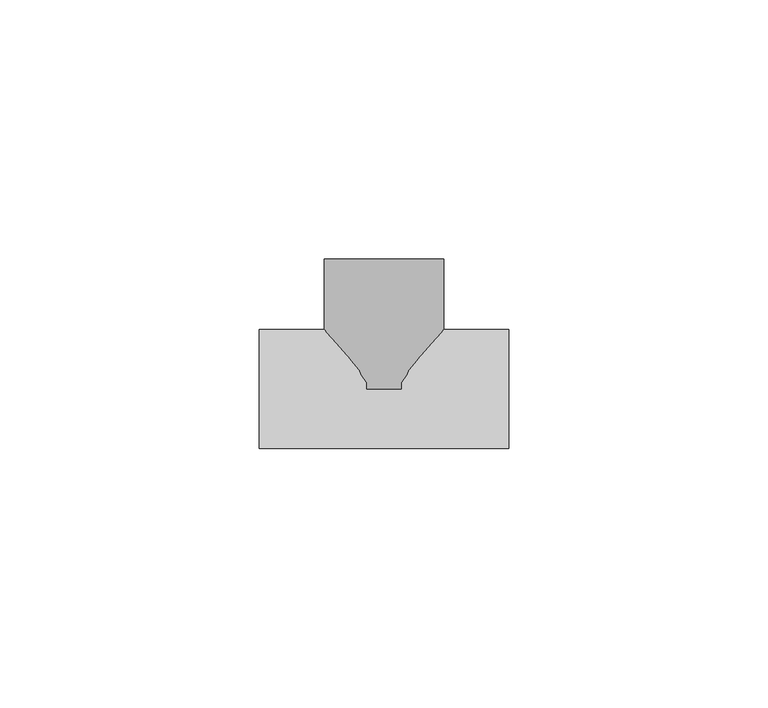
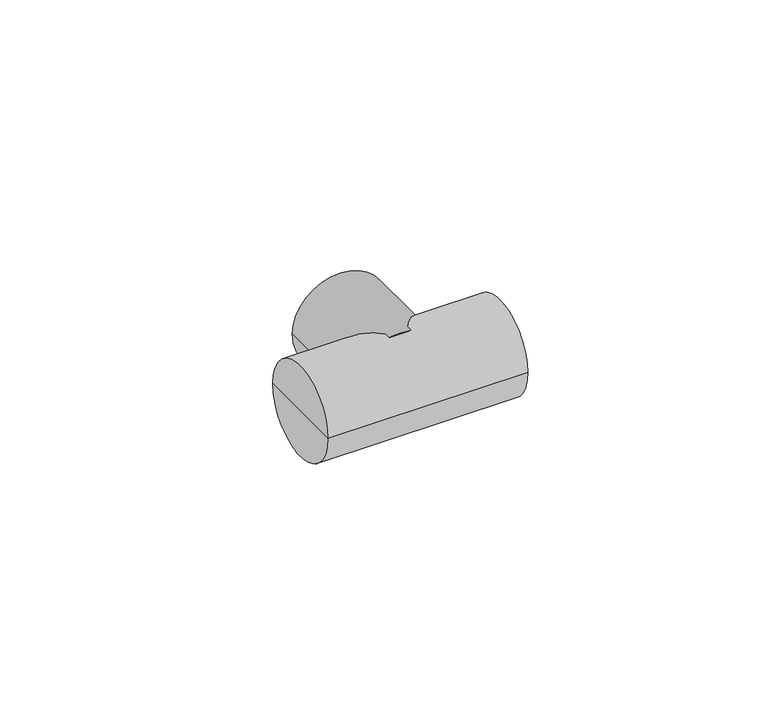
"""IFC4 building model written with IfcOpenShell, lengths in millimetres: pipe fitting geometry, KAN-therm PP trojnik : KAN-therm PP trojnik."""

from ifc_helpers import new_model, si_unit, frame, origin, place, context, project, spatial, circle_curve, source, transform, mapped, element, save
from ifc_brep_helpers import plane_surface, cylinder_surface, advanced_brep


def pipe_fitting_a57338f9(model_context):
    return source(origin(), model_context, "Body", "AdvancedBrep", [
        advanced_brep(
        [(-11.5, 25.0, 0.0), (11.5, 25.0, 0.0), (11.5, 0.0, 0.0), (-11.5, 0.0, 0.0), (0.0, 25.0, 0.0), (0.0, 0.0, 0.0)],
        [
            (0, 1, circle_curve(frame((0.0, 25.0, 0.0), z_axis=(0.0, -1.0, 0.0), x_axis=(1.0, 0.0, 0.0)), 11.5)),
            (1, 2),
            (2, 3, circle_curve(frame((0.0, 0.0, 0.0), z_axis=(0.0, 1.0, 0.0), x_axis=(1.0, 0.0, 0.0)), 11.5)),
            (3, 0),
            (1, 0, circle_curve(frame((0.0, 25.0, 0.0), z_axis=(0.0, -1.0, 0.0), x_axis=(1.0, 0.0, 0.0)), 11.5)),
            (3, 2, circle_curve(frame((0.0, 0.0, 0.0), z_axis=(0.0, 1.0, 0.0), x_axis=(1.0, 0.0, 0.0)), 11.5)),
            (4, 1),
            (0, 4),
            (2, 5),
            (5, 3),
        ],
        [
            cylinder_surface(frame((0.0, 1998.0, 0.0), z_axis=(0.0, 1.0, 0.0), x_axis=(1.0, 0.0, 0.0)), 11.5),
            plane_surface(frame((0.0, 25.0, 0.0), z_axis=(0.0, 1.0, 0.0), x_axis=(1.0, 0.0, 0.0))),
            plane_surface(frame((0.0, 0.0, 0.0), z_axis=(0.0, -1.0, 0.0), x_axis=(1.0, 0.0, 0.0))),
        ],
        [
            (0, [[1, 2, 3, 4]]),
            (0, [[5, -4, 6, -2]]),
            (1, [[7, -1, 8]]),
            (1, [[-8, -5, -7]]),
            (2, [[-3, 9, 10]]),
            (2, [[-6, -10, -9]]),
        ],
    ),
        advanced_brep(
        [(24.0, 0.0, 0.0), (24.0, -11.5, 0.0), (24.0, 11.5, 0.0), (-24.0, 11.5, 0.0), (-24.0, -11.5, 0.0), (-24.0, 0.0, 0.0)],
        [
            (0, 1),
            (1, 2, circle_curve(frame((24.0, 0.0, 0.0), z_axis=(1.0, 0.0, 0.0), x_axis=(0.0, -1.0, 0.0)), 11.5)),
            (2, 0),
            (2, 1, circle_curve(frame((24.0, 0.0, 0.0), z_axis=(1.0, 0.0, 0.0), x_axis=(0.0, -1.0, 0.0)), 11.5)),
            (3, 4, circle_curve(frame((-24.0, 0.0, 0.0), z_axis=(-1.0, 0.0, 0.0), x_axis=(0.0, -1.0, 0.0)), 11.5)),
            (4, 5),
            (5, 3),
            (4, 3, circle_curve(frame((-24.0, 0.0, 0.0), z_axis=(-1.0, 0.0, 0.0), x_axis=(0.0, -1.0, 0.0)), 11.5)),
            (1, 4),
            (3, 2),
        ],
        [
            plane_surface(frame((24.0, 0.0, 0.0), z_axis=(1.0, 0.0, 0.0), x_axis=(0.0, -1.0, 0.0))),
            plane_surface(frame((-24.0, 0.0, 0.0), z_axis=(-1.0, 0.0, 0.0), x_axis=(0.0, -1.0, 0.0))),
            cylinder_surface(frame((1996.5, 0.0, 0.0), z_axis=(1.0, 0.0, 0.0), x_axis=(0.0, -1.0, 0.0)), 11.5),
        ],
        [
            (0, [[1, 2, 3]]),
            (0, [[-3, 4, -1]]),
            (1, [[5, 6, 7]]),
            (1, [[8, -7, -6]]),
            (2, [[-2, 9, -5, 10]]),
            (2, [[-4, -10, -8, -9]]),
        ],
    ),
    ])


if __name__ == "__main__":
    model = new_model("IFC4")
    model_context = context("Model", 3, world=origin())
    ifc_project = project(units=[si_unit("LENGTHUNIT", "METRE", prefix="MILLI")], contexts=[model_context])
    site = spatial("IfcSite", under=ifc_project)
    building = spatial("IfcBuilding", under=site)
    placement = place(None, origin())
    pipe_fitting_shape = pipe_fitting_a57338f9(model_context)
    element("IfcPipeFitting", 1, ObjectType="KAN-therm PP trojnik : KAN-therm PP trojnik", at=placement, inside=building, context=model_context, shape_type="MappedRepresentation", body=[
        mapped(pipe_fitting_shape, transform((0.0, 0.0, 0.0), x_axis=(1.0, 0.0, 0.0), y_axis=(0.0, 1.0, 0.0), z_axis=(0.0, 0.0, 1.0))),
    ])
    save(model, "model.ifc")
